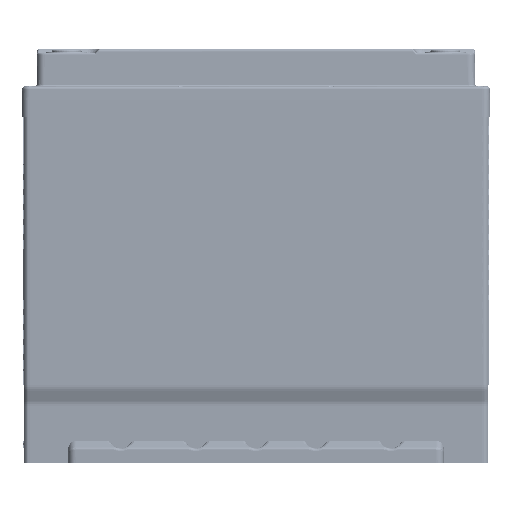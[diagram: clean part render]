
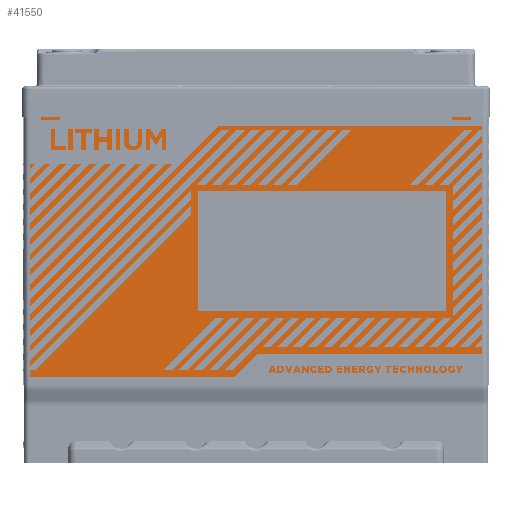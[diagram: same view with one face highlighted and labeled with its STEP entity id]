
A CAD part, front view. The second image highlights one B-rep face of the part: STEP entity #41550.
In plain terms, the highlighted planar face has unit normal (0, -1, 0).
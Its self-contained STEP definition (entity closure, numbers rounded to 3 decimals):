
#11964=DIRECTION('',(0.,0.,-1.));
#11965=VECTOR('',#11964,178.687);
#11966=CARTESIAN_POINT('',(-150.75,-84.25,5.5));
#11967=LINE('',#11966,#11965);
#11978=DIRECTION('',(1.,0.,0.));
#11979=VECTOR('',#11978,301.5);
#11980=CARTESIAN_POINT('',(-150.75,-84.25,5.5));
#11981=LINE('',#11980,#11979);
#11992=DIRECTION('',(0.,0.,1.));
#11993=VECTOR('',#11992,178.687);
#11994=CARTESIAN_POINT('',(150.75,-84.25,-173.187));
#11995=LINE('',#11994,#11993);
#14161=DIRECTION('',(1.,0.,0.));
#14162=VECTOR('',#14161,301.5);
#14163=CARTESIAN_POINT('',(-150.75,-84.25,-173.187));
#14164=LINE('',#14163,#14162);
#28131=CARTESIAN_POINT('',(150.75,-84.25,5.5));
#28132=VERTEX_POINT('',#28131);
#28133=CARTESIAN_POINT('',(-150.75,-84.25,5.5));
#28134=VERTEX_POINT('',#28133);
#30103=CARTESIAN_POINT('',(-150.75,-84.25,-173.187));
#30104=VERTEX_POINT('',#30103);
#30105=CARTESIAN_POINT('',(150.75,-84.25,-173.187));
#30106=VERTEX_POINT('',#30105);
#41537=CARTESIAN_POINT('',(-154.75,-84.25,0.));
#41538=DIRECTION('',(0.,-1.,0.));
#41539=DIRECTION('',(1.,0.,0.));
#41540=AXIS2_PLACEMENT_3D('',#41537,#41538,#41539);
#41541=PLANE('',#41540);
#41542=ORIENTED_EDGE('',*,*,#32326,.T.);
#41544=ORIENTED_EDGE('',*,*,#41543,.F.);
#41546=ORIENTED_EDGE('',*,*,#41545,.F.);
#41547=ORIENTED_EDGE('',*,*,#41522,.F.);
#41548=EDGE_LOOP('',(#41542,#41544,#41546,#41547));
#41549=FACE_OUTER_BOUND('',#41548,.F.);
#32326=EDGE_CURVE('',#28134,#28132,#11981,.T.);
#41522=EDGE_CURVE('',#28134,#30104,#11967,.T.);
#41543=EDGE_CURVE('',#30106,#28132,#11995,.T.);
#41545=EDGE_CURVE('',#30104,#30106,#14164,.T.);
#41550=ADVANCED_FACE('',(#41549),#41541,.T.);
